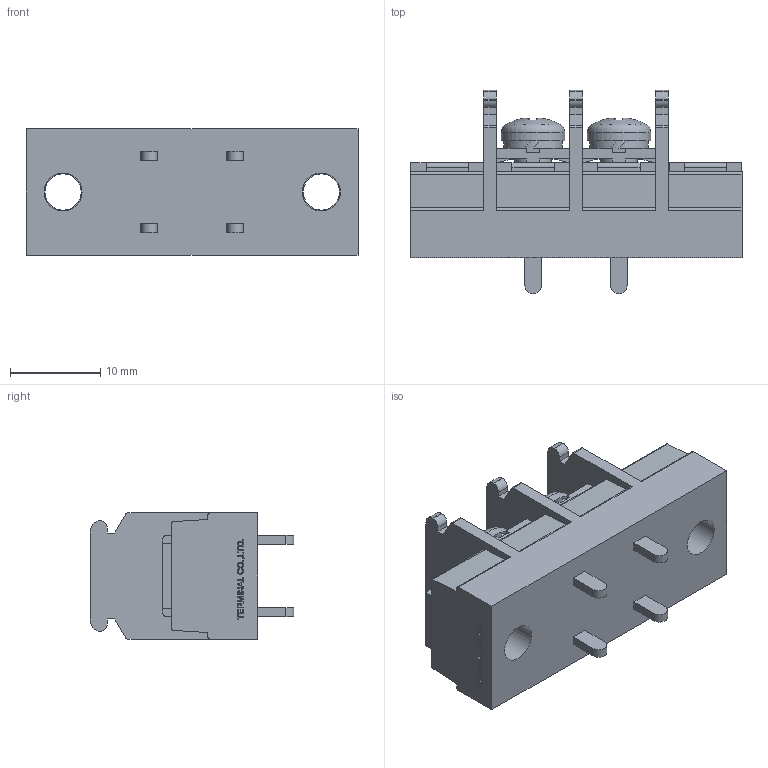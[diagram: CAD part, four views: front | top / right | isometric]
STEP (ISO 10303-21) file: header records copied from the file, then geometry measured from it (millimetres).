
FILE_DESCRIPTION(/* description */ ('Alibre Inc.'),/* implementation_level */ '2;1');
FILE_NAME(/* name */ 'export-97F059DD-B7DF-4BF4-8029-F46DD0E72525',/* time_stamp */ '2021-02-13T17:06:05+09:00',/* author */ (''),/* organization */ (''),/* preprocessor_version */ 'ST-DEVELOPER v17',/* originating_system */ 'Alibre',/* authorisation */ '');
FILE_SCHEMA (('CONFIG_CONTROL_DESIGN'));
Length unit declared in the file: millimetre
Bounding box: 36.7 x 22.5 x 14 mm (x, y, z)
Volume: 5470.8 mm3; surface area: 3805.7 mm2
Topology: 1 solids, 19 shells, 696 faces, 1880 edges, 1244 vertices
Faces by surface type: plane 510, bspline 104, cylinder 66, cone 10, torus 4, sphere 2
Full cylindrical faces by diameter (mm): 4 x6, 4.2 x2, 7 x2
Entity records: 20965 total; most frequent: CARTESIAN_POINT 4726, ORIENTED_EDGE 3716, DIRECTION 2438, EDGE_CURVE 1858, VECTOR 1404, LINE 1404, VERTEX_POINT 1238, EDGE_LOOP 762
